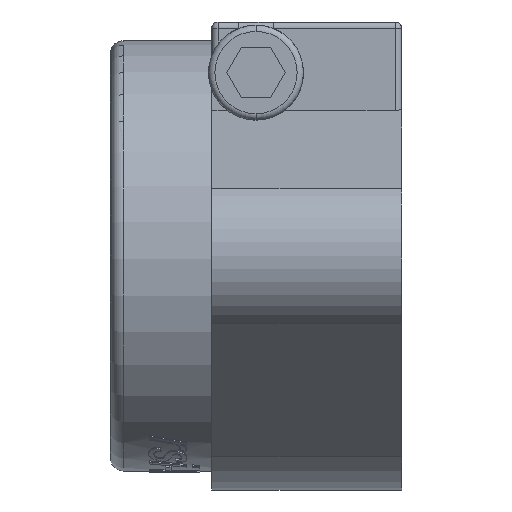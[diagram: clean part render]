
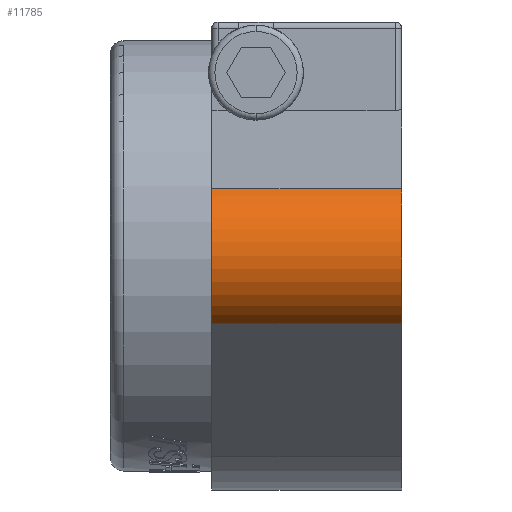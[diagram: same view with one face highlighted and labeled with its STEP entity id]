
A CAD part, left-side view. The second image highlights one B-rep face of the part: STEP entity #11785.
In plain terms, the highlighted cylindrical face has radius 6.2 mm (diameter 12.4 mm), a partial arc.
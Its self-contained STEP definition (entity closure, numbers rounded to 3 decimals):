
#58 = CARTESIAN_POINT ( 'NONE',  ( -27.177, 15., -5.324 ) ) ;
#589 = DIRECTION ( 'NONE',  ( 0., 0., -1. ) ) ;
#1537 = CARTESIAN_POINT ( 'NONE',  ( -27.177, 0., 5.324 ) ) ;
#1588 = VERTEX_POINT ( 'NONE', #13713 ) ;
#1648 = EDGE_CURVE ( 'NONE', #1588, #10208, #6367, .T. ) ;
#2086 = VERTEX_POINT ( 'NONE', #3813 ) ;
#2318 = CARTESIAN_POINT ( 'NONE',  ( -27.177, 15., 5.324 ) ) ;
#2323 = CARTESIAN_POINT ( 'NONE',  ( -24., 15., 0. ) ) ;
#2472 = CARTESIAN_POINT ( 'NONE',  ( -27.177, 15., -5.324 ) ) ;
#2544 = LINE ( 'NONE', #58, #10253 ) ;
#2677 = DIRECTION ( 'NONE',  ( 0., -1., 0. ) ) ;
#2821 = EDGE_CURVE ( 'NONE', #4690, #2086, #2544, .T. ) ;
#3266 = DIRECTION ( 'NONE',  ( 0., -1., 0. ) ) ;
#3396 = DIRECTION ( 'NONE',  ( 0., 0., 1. ) ) ;
#3583 = CYLINDRICAL_SURFACE ( 'NONE', #7351, 6.2 ) ;
#3639 = CARTESIAN_POINT ( 'NONE',  ( -24., 0., 0. ) ) ;
#3813 = CARTESIAN_POINT ( 'NONE',  ( -27.177, 0., -5.324 ) ) ;
#4690 = VERTEX_POINT ( 'NONE', #2472 ) ;
#4719 = DIRECTION ( 'NONE',  ( 0., 0., 1. ) ) ;
#5056 = ORIENTED_EDGE ( 'NONE', *, *, #12263, .F. ) ;
#5112 = AXIS2_PLACEMENT_3D ( 'NONE', #3639, #11131, #4719 ) ;
#5804 = EDGE_LOOP ( 'NONE', ( #10359, #11786, #5056, #7286 ) ) ;
#6367 = LINE ( 'NONE', #2318, #11744 ) ;
#6784 = CIRCLE ( 'NONE', #5112, 6.2 ) ;
#6947 = CARTESIAN_POINT ( 'NONE',  ( -24., 15., 0. ) ) ;
#7286 = ORIENTED_EDGE ( 'NONE', *, *, #2821, .T. ) ;
#7351 = AXIS2_PLACEMENT_3D ( 'NONE', #6947, #2677, #589 ) ;
#7799 = AXIS2_PLACEMENT_3D ( 'NONE', #2323, #9787, #3396 ) ;
#8584 = DIRECTION ( 'NONE',  ( 0., -1., 0. ) ) ;
#9787 = DIRECTION ( 'NONE',  ( 0., 1., 0. ) ) ;
#10174 = EDGE_CURVE ( 'NONE', #2086, #10208, #6784, .T. ) ;
#10208 = VERTEX_POINT ( 'NONE', #1537 ) ;
#10253 = VECTOR ( 'NONE', #8584, 1000. ) ;
#10359 = ORIENTED_EDGE ( 'NONE', *, *, #10174, .T. ) ;
#10933 = CIRCLE ( 'NONE', #7799, 6.2 ) ;
#11131 = DIRECTION ( 'NONE',  ( 0., 1., 0. ) ) ;
#11744 = VECTOR ( 'NONE', #3266, 1000. ) ;
#11785 = ADVANCED_FACE ( 'NONE', ( #12091 ), #3583, .T. ) ;
#11786 = ORIENTED_EDGE ( 'NONE', *, *, #1648, .F. ) ;
#12091 = FACE_OUTER_BOUND ( 'NONE', #5804, .T. ) ;
#12263 = EDGE_CURVE ( 'NONE', #4690, #1588, #10933, .T. ) ;
#13713 = CARTESIAN_POINT ( 'NONE',  ( -27.177, 15., 5.324 ) ) ;
